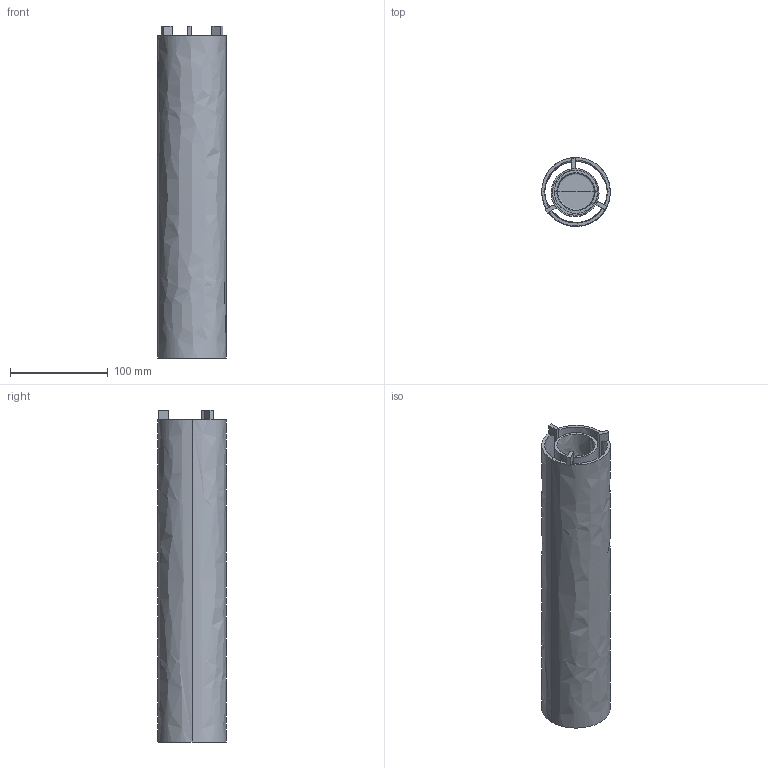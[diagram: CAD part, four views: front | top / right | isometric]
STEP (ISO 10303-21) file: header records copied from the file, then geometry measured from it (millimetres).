
FILE_DESCRIPTION(/* description */ (''),/* implementation_level */ '2;1');
FILE_NAME(/* name */ 'stromboli',/* time_stamp */ '2016-12-06T14:45:33+01:00',/* author */ (''),/* organization */ (''),/* preprocessor_version */ 'ST-DEVELOPER v15',/* originating_system */ '',/* authorisation */ '');
FILE_SCHEMA (('AUTOMOTIVE_DESIGN'));
Length unit declared in the file: millimetre
Products named in the file (1): Document
Bounding box: 70 x 70 x 338.98 mm (x, y, z)
Volume: 253803.9 mm3; surface area: 181869.1 mm2
Topology: 6 solids, 6 shells, 47 faces, 104 edges, 60 vertices
Faces by surface type: plane 25, bspline 22
Entity records: 1506 total; most frequent: CARTESIAN_POINT 783, ORIENTED_EDGE 192, EDGE_CURVE 96, B_SPLINE_CURVE_WITH_KNOTS 68, VERTEX_POINT 60, EDGE_LOOP 48, ADVANCED_FACE 47, FACE_OUTER_BOUND 47
